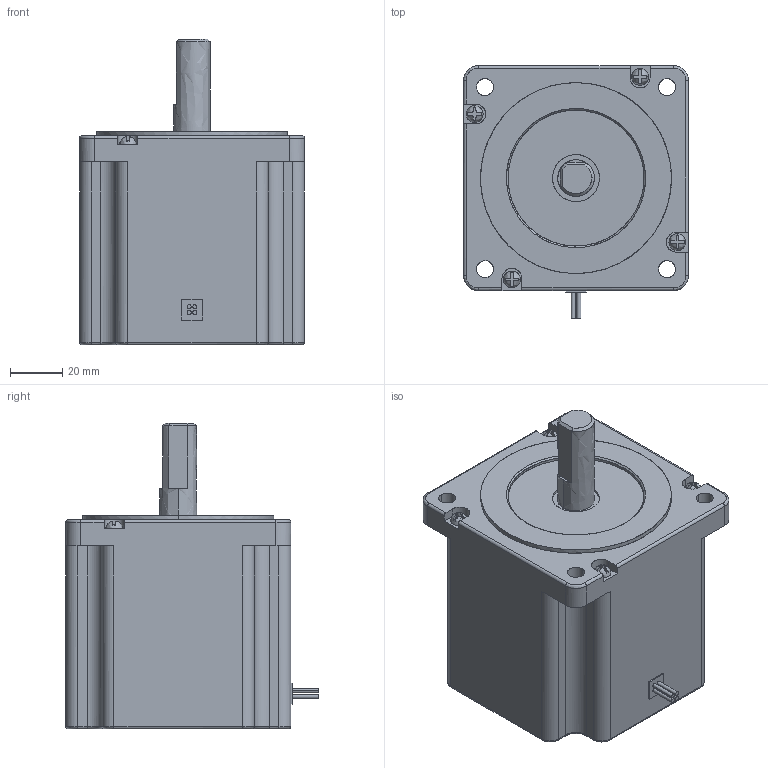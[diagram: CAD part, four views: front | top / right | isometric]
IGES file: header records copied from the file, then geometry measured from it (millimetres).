
Global section: file name: C:\DOCUME~1\PC001\BM-86S-C.igs; preprocessor: I-DEAS 3D IGES Translator 12; date: 20100107.190747; units: millimetre
Bounding box: 86 x 96.5 x 117 mm (x, y, z)
Surface area: 43561 mm2 (no closed solid volume)
Topology: 0 solids, 0 shells, 198 faces, 1061 edges, 1061 vertices
Faces by surface type: bspline 198
